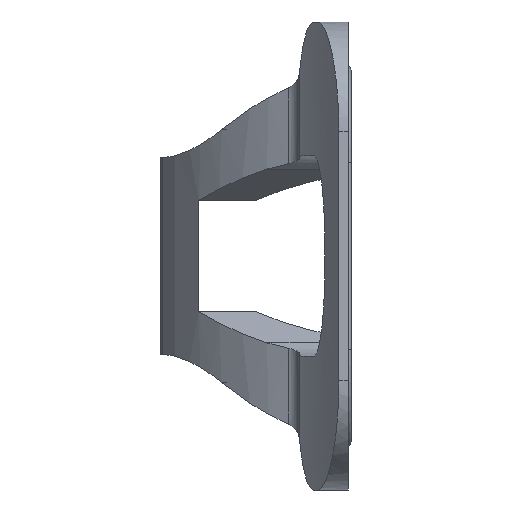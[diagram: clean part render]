
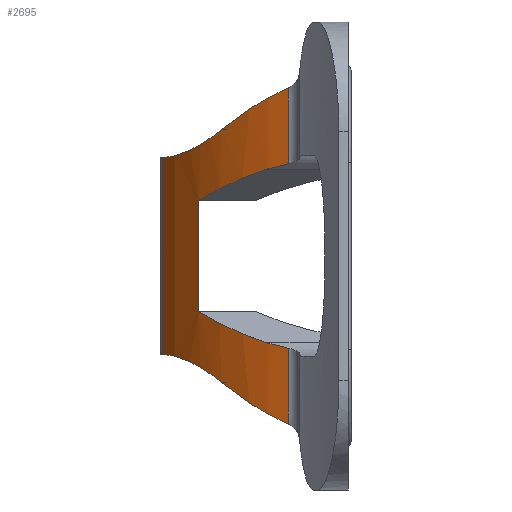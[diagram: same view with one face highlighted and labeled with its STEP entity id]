
A CAD part, left-side view. The second image highlights one B-rep face of the part: STEP entity #2695.
In plain terms, the highlighted cylindrical face has radius 30.829 mm (diameter 61.657 mm), a partial arc.
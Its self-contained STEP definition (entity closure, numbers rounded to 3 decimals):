
#43=ELLIPSE('',#2867,36.066,30.829);
#47=ELLIPSE('',#2882,43.98,30.829);
#48=ELLIPSE('',#2901,36.066,30.829);
#49=ELLIPSE('',#2902,43.98,30.829);
#77=B_SPLINE_CURVE_WITH_KNOTS('',3,(#4081,#4082,#4083,#4084,#4085,#4086),
 .UNSPECIFIED.,.F.,.F.,(4,2,4),(1.601,2.107,2.555),
 .UNSPECIFIED.);
#79=B_SPLINE_CURVE_WITH_KNOTS('',3,(#4127,#4128,#4129,#4130),
 .UNSPECIFIED.,.F.,.F.,(4,4),(6.485,6.75),
 .UNSPECIFIED.);
#86=B_SPLINE_CURVE_WITH_KNOTS('',3,(#4282,#4283,#4284,#4285),
 .UNSPECIFIED.,.F.,.F.,(4,4),(6.485,6.75),
 .UNSPECIFIED.);
#87=B_SPLINE_CURVE_WITH_KNOTS('',3,(#4290,#4291,#4292,#4293,#4294,#4295),
 .UNSPECIFIED.,.F.,.F.,(4,2,4),(1.601,2.107,2.555),
 .UNSPECIFIED.);
#131=CYLINDRICAL_SURFACE('',#2900,30.829);
#287=FACE_OUTER_BOUND('',#445,.T.);
#445=EDGE_LOOP('',(#1990,#1991,#1992,#1993,#1994,#1995,#1996,#1997,#1998,
#1999,#2000,#2001));
#577=LINE('',#4003,#795);
#609=LINE('',#4154,#827);
#631=LINE('',#4277,#849);
#632=LINE('',#4287,#850);
#795=VECTOR('',#3159,10.);
#827=VECTOR('',#3269,10.);
#849=VECTOR('',#3343,10.);
#850=VECTOR('',#3348,10.);
#1140=VERTEX_POINT('',#4000);
#1141=VERTEX_POINT('',#4002);
#1164=VERTEX_POINT('',#4065);
#1167=VERTEX_POINT('',#4079);
#1175=VERTEX_POINT('',#4110);
#1180=VERTEX_POINT('',#4126);
#1185=VERTEX_POINT('',#4153);
#1208=VERTEX_POINT('',#4270);
#1209=VERTEX_POINT('',#4279);
#1210=VERTEX_POINT('',#4281);
#1211=VERTEX_POINT('',#4286);
#1212=VERTEX_POINT('',#4288);
#1411=EDGE_CURVE('',#1141,#1140,#577,.T.);
#1445=EDGE_CURVE('',#1164,#1167,#77,.T.);
#1458=EDGE_CURVE('',#1175,#1141,#43,.T.);
#1464=EDGE_CURVE('',#1175,#1180,#79,.T.);
#1471=EDGE_CURVE('',#1180,#1185,#609,.T.);
#1487=EDGE_CURVE('',#1167,#1185,#47,.T.);
#1511=EDGE_CURVE('',#1164,#1208,#631,.T.);
#1512=EDGE_CURVE('',#1209,#1140,#48,.T.);
#1513=EDGE_CURVE('',#1209,#1210,#86,.T.);
#1514=EDGE_CURVE('',#1210,#1211,#632,.T.);
#1515=EDGE_CURVE('',#1212,#1211,#49,.T.);
#1516=EDGE_CURVE('',#1208,#1212,#87,.T.);
#1990=ORIENTED_EDGE('',*,*,#1511,.F.);
#1991=ORIENTED_EDGE('',*,*,#1445,.T.);
#1992=ORIENTED_EDGE('',*,*,#1487,.T.);
#1993=ORIENTED_EDGE('',*,*,#1471,.F.);
#1994=ORIENTED_EDGE('',*,*,#1464,.F.);
#1995=ORIENTED_EDGE('',*,*,#1458,.T.);
#1996=ORIENTED_EDGE('',*,*,#1411,.T.);
#1997=ORIENTED_EDGE('',*,*,#1512,.F.);
#1998=ORIENTED_EDGE('',*,*,#1513,.T.);
#1999=ORIENTED_EDGE('',*,*,#1514,.T.);
#2000=ORIENTED_EDGE('',*,*,#1515,.F.);
#2001=ORIENTED_EDGE('',*,*,#1516,.F.);
#2695=ADVANCED_FACE('',(#287),#131,.T.);
#2867=AXIS2_PLACEMENT_3D('',#4111,#3249,#3250);
#2882=AXIS2_PLACEMENT_3D('',#4227,#3293,#3294);
#2900=AXIS2_PLACEMENT_3D('',#4278,#3344,#3345);
#2901=AXIS2_PLACEMENT_3D('',#4280,#3346,#3347);
#2902=AXIS2_PLACEMENT_3D('',#4289,#3349,#3350);
#3159=DIRECTION('',(0.,0.,1.));
#3249=DIRECTION('center_axis',(0.519,0.,-0.855));
#3250=DIRECTION('ref_axis',(-0.855,0.,-0.519));
#3269=DIRECTION('',(0.,0.,-1.));
#3293=DIRECTION('center_axis',(-0.713,0.,0.701));
#3294=DIRECTION('ref_axis',(-0.701,0.,-0.713));
#3343=DIRECTION('',(0.,0.,1.));
#3344=DIRECTION('center_axis',(0.,0.,-1.));
#3345=DIRECTION('ref_axis',(-1.,0.,0.));
#3346=DIRECTION('center_axis',(-0.519,0.,-0.855));
#3347=DIRECTION('ref_axis',(-0.855,0.,0.519));
#3348=DIRECTION('',(0.,0.,1.));
#3349=DIRECTION('center_axis',(0.713,0.,0.701));
#3350=DIRECTION('ref_axis',(-0.701,0.,0.713));
#4000=CARTESIAN_POINT('',(-21.615,-4.,5.93));
#4002=CARTESIAN_POINT('',(-21.615,-4.,-5.93));
#4003=CARTESIAN_POINT('',(-21.615,-4.,0.));
#4065=CARTESIAN_POINT('',(-16.845,-0.162,-10.501));
#4079=CARTESIAN_POINT('',(-23.841,-6.436,-13.49));
#4081=CARTESIAN_POINT('Ctrl Pts',(-16.845,-0.162,-10.501));
#4082=CARTESIAN_POINT('Ctrl Pts',(-18.262,-1.087,-10.52));
#4083=CARTESIAN_POINT('Ctrl Pts',(-19.676,-2.188,-10.851));
#4084=CARTESIAN_POINT('Ctrl Pts',(-22.041,-4.374,-11.952));
#4085=CARTESIAN_POINT('Ctrl Pts',(-23.028,-5.446,-12.664));
#4086=CARTESIAN_POINT('Ctrl Pts',(-23.841,-6.436,-13.49));
#4110=CARTESIAN_POINT('',(-27.117,-11.317,-9.271));
#4111=CARTESIAN_POINT('Origin',(0.,-25.982,
7.193));
#4126=CARTESIAN_POINT('',(-28.237,-13.609,-9.858));
#4127=CARTESIAN_POINT('Ctrl Pts',(-27.117,-11.317,-9.271));
#4128=CARTESIAN_POINT('Ctrl Pts',(-27.512,-12.047,-9.511));
#4129=CARTESIAN_POINT('Ctrl Pts',(-27.888,-12.813,-9.702));
#4130=CARTESIAN_POINT('Ctrl Pts',(-28.237,-13.609,-9.858));
#4153=CARTESIAN_POINT('',(-28.237,-13.609,-17.963));
#4154=CARTESIAN_POINT('',(-28.237,-13.609,0.));
#4227=CARTESIAN_POINT('Origin',(0.,-25.982,
10.765));
#4270=CARTESIAN_POINT('',(-16.845,-0.162,10.501));
#4277=CARTESIAN_POINT('',(-16.845,-0.162,0.));
#4278=CARTESIAN_POINT('Origin',(0.,-25.982,
0.));
#4279=CARTESIAN_POINT('',(-27.117,-11.317,9.271));
#4280=CARTESIAN_POINT('Origin',(0.,-25.982,
-7.193));
#4281=CARTESIAN_POINT('',(-28.237,-13.609,9.858));
#4282=CARTESIAN_POINT('Ctrl Pts',(-27.117,-11.317,9.271));
#4283=CARTESIAN_POINT('Ctrl Pts',(-27.512,-12.047,9.511));
#4284=CARTESIAN_POINT('Ctrl Pts',(-27.888,-12.813,9.702));
#4285=CARTESIAN_POINT('Ctrl Pts',(-28.237,-13.609,9.858));
#4286=CARTESIAN_POINT('',(-28.237,-13.609,17.963));
#4287=CARTESIAN_POINT('',(-28.237,-13.609,0.));
#4288=CARTESIAN_POINT('',(-23.841,-6.436,13.49));
#4289=CARTESIAN_POINT('Origin',(0.,-25.982,
-10.765));
#4290=CARTESIAN_POINT('Ctrl Pts',(-16.845,-0.162,10.501));
#4291=CARTESIAN_POINT('Ctrl Pts',(-18.262,-1.087,10.52));
#4292=CARTESIAN_POINT('Ctrl Pts',(-19.676,-2.188,10.851));
#4293=CARTESIAN_POINT('Ctrl Pts',(-22.041,-4.374,11.952));
#4294=CARTESIAN_POINT('Ctrl Pts',(-23.028,-5.446,12.664));
#4295=CARTESIAN_POINT('Ctrl Pts',(-23.841,-6.436,13.49));
